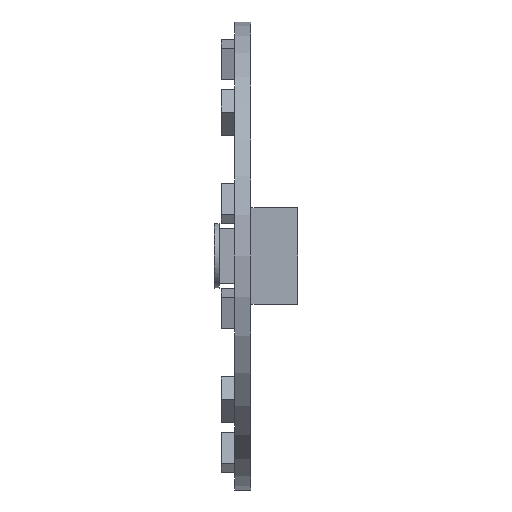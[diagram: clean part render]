
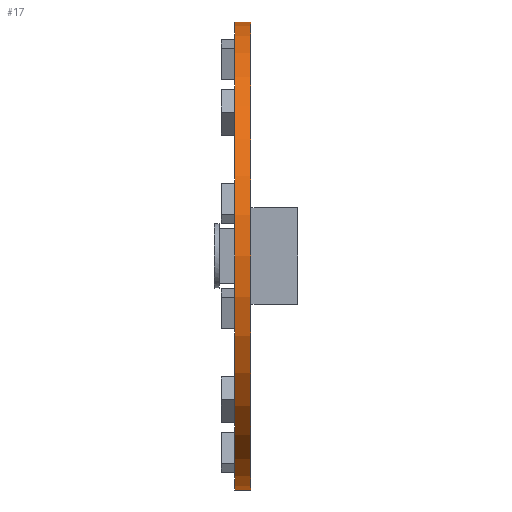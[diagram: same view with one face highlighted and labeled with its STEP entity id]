
A CAD part, front view. The second image highlights one B-rep face of the part: STEP entity #17.
In plain terms, the highlighted cylindrical face has radius 14.5 mm (diameter 29 mm), a full revolution.
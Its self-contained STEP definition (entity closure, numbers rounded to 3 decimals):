
#17 = ADVANCED_FACE('',(#18),#31,.T.);
#18 = FACE_BOUND('',#19,.F.);
#19 = EDGE_LOOP('',(#20,#58,#81,#112));
#20 = ORIENTED_EDGE('',*,*,#21,.F.);
#21 = EDGE_CURVE('',#22,#22,#24,.T.);
#22 = VERTEX_POINT('',#23);
#23 = CARTESIAN_POINT('',(-66.72,-4.,227.5));
#24 = SURFACE_CURVE('',#25,(#30,#42),.PCURVE_S1.);
#25 = CIRCLE('',#26,14.5);
#26 = AXIS2_PLACEMENT_3D('',#27,#28,#29);
#27 = CARTESIAN_POINT('',(-66.72,-4.,213.));
#28 = DIRECTION('',(1.,-0.,0.));
#29 = DIRECTION('',(-0.,-0.,1.));
#30 = PCURVE('',#31,#36);
#31 = CYLINDRICAL_SURFACE('',#32,14.5);
#32 = AXIS2_PLACEMENT_3D('',#33,#34,#35);
#33 = CARTESIAN_POINT('',(-65.72,-4.,213.));
#34 = DIRECTION('',(-1.,-0.,-0.));
#35 = DIRECTION('',(-0.,-0.,1.));
#36 = DEFINITIONAL_REPRESENTATION('',(#37),#41);
#37 = LINE('',#38,#39);
#38 = CARTESIAN_POINT('',(-0.,1.));
#39 = VECTOR('',#40,1.);
#40 = DIRECTION('',(-1.,0.));
#41 = ( GEOMETRIC_REPRESENTATION_CONTEXT(2) 
PARAMETRIC_REPRESENTATION_CONTEXT() REPRESENTATION_CONTEXT('2D SPACE',''
  ) );
#42 = PCURVE('',#43,#48);
#43 = PLANE('',#44);
#44 = AXIS2_PLACEMENT_3D('',#45,#46,#47);
#45 = CARTESIAN_POINT('',(-66.72,-4.,213.));
#46 = DIRECTION('',(-1.,-0.,-0.));
#47 = DIRECTION('',(0.,0.,-1.));
#48 = DEFINITIONAL_REPRESENTATION('',(#49),#57);
#49 = ( BOUNDED_CURVE() B_SPLINE_CURVE(2,(#50,#51,#52,#53,#54,#55,#56),
.UNSPECIFIED.,.T.,.F.) B_SPLINE_CURVE_WITH_KNOTS((1,2,2,2,2,1),(
    -2.094,0.,2.094,4.189,6.283,
8.378),.UNSPECIFIED.) CURVE() GEOMETRIC_REPRESENTATION_ITEM() 
RATIONAL_B_SPLINE_CURVE((1.,0.5,1.,0.5,1.,0.5,1.)) REPRESENTATION_ITEM(
  '') );
#50 = CARTESIAN_POINT('',(-14.5,0.));
#51 = CARTESIAN_POINT('',(-14.5,25.115));
#52 = CARTESIAN_POINT('',(7.25,12.557));
#53 = CARTESIAN_POINT('',(29.,0.));
#54 = CARTESIAN_POINT('',(7.25,-12.557));
#55 = CARTESIAN_POINT('',(-14.5,-25.115));
#56 = CARTESIAN_POINT('',(-14.5,0.));
#57 = ( GEOMETRIC_REPRESENTATION_CONTEXT(2) 
PARAMETRIC_REPRESENTATION_CONTEXT() REPRESENTATION_CONTEXT('2D SPACE',''
  ) );
#58 = ORIENTED_EDGE('',*,*,#59,.F.);
#59 = EDGE_CURVE('',#60,#22,#62,.T.);
#60 = VERTEX_POINT('',#61);
#61 = CARTESIAN_POINT('',(-65.72,-4.,227.5));
#62 = SEAM_CURVE('',#63,(#67,#74),.PCURVE_S1.);
#63 = LINE('',#64,#65);
#64 = CARTESIAN_POINT('',(-65.72,-4.,227.5));
#65 = VECTOR('',#66,1.);
#66 = DIRECTION('',(-1.,-0.,-0.));
#67 = PCURVE('',#31,#68);
#68 = DEFINITIONAL_REPRESENTATION('',(#69),#73);
#69 = LINE('',#70,#71);
#70 = CARTESIAN_POINT('',(-6.283,-0.));
#71 = VECTOR('',#72,1.);
#72 = DIRECTION('',(-0.,1.));
#73 = ( GEOMETRIC_REPRESENTATION_CONTEXT(2) 
PARAMETRIC_REPRESENTATION_CONTEXT() REPRESENTATION_CONTEXT('2D SPACE',''
  ) );
#74 = PCURVE('',#31,#75);
#75 = DEFINITIONAL_REPRESENTATION('',(#76),#80);
#76 = LINE('',#77,#78);
#77 = CARTESIAN_POINT('',(-0.,-0.));
#78 = VECTOR('',#79,1.);
#79 = DIRECTION('',(-0.,1.));
#80 = ( GEOMETRIC_REPRESENTATION_CONTEXT(2) 
PARAMETRIC_REPRESENTATION_CONTEXT() REPRESENTATION_CONTEXT('2D SPACE',''
  ) );
#81 = ORIENTED_EDGE('',*,*,#82,.T.);
#82 = EDGE_CURVE('',#60,#60,#83,.T.);
#83 = SURFACE_CURVE('',#84,(#89,#96),.PCURVE_S1.);
#84 = CIRCLE('',#85,14.5);
#85 = AXIS2_PLACEMENT_3D('',#86,#87,#88);
#86 = CARTESIAN_POINT('',(-65.72,-4.,213.));
#87 = DIRECTION('',(1.,-0.,0.));
#88 = DIRECTION('',(-0.,-0.,1.));
#89 = PCURVE('',#31,#90);
#90 = DEFINITIONAL_REPRESENTATION('',(#91),#95);
#91 = LINE('',#92,#93);
#92 = CARTESIAN_POINT('',(-0.,0.));
#93 = VECTOR('',#94,1.);
#94 = DIRECTION('',(-1.,0.));
#95 = ( GEOMETRIC_REPRESENTATION_CONTEXT(2) 
PARAMETRIC_REPRESENTATION_CONTEXT() REPRESENTATION_CONTEXT('2D SPACE',''
  ) );
#96 = PCURVE('',#97,#102);
#97 = PLANE('',#98);
#98 = AXIS2_PLACEMENT_3D('',#99,#100,#101);
#99 = CARTESIAN_POINT('',(-65.72,-4.,213.));
#100 = DIRECTION('',(-1.,-0.,-0.));
#101 = DIRECTION('',(0.,0.,-1.));
#102 = DEFINITIONAL_REPRESENTATION('',(#103),#111);
#103 = ( BOUNDED_CURVE() B_SPLINE_CURVE(2,(#104,#105,#106,#107,#108,#109
,#110),.UNSPECIFIED.,.T.,.F.) B_SPLINE_CURVE_WITH_KNOTS((1,2,2,2,2,1),(
    -2.094,0.,2.094,4.189,6.283,
8.378),.UNSPECIFIED.) CURVE() GEOMETRIC_REPRESENTATION_ITEM() 
RATIONAL_B_SPLINE_CURVE((1.,0.5,1.,0.5,1.,0.5,1.)) REPRESENTATION_ITEM(
  '') );
#104 = CARTESIAN_POINT('',(-14.5,0.));
#105 = CARTESIAN_POINT('',(-14.5,25.115));
#106 = CARTESIAN_POINT('',(7.25,12.557));
#107 = CARTESIAN_POINT('',(29.,0.));
#108 = CARTESIAN_POINT('',(7.25,-12.557));
#109 = CARTESIAN_POINT('',(-14.5,-25.115));
#110 = CARTESIAN_POINT('',(-14.5,0.));
#111 = ( GEOMETRIC_REPRESENTATION_CONTEXT(2) 
PARAMETRIC_REPRESENTATION_CONTEXT() REPRESENTATION_CONTEXT('2D SPACE',''
  ) );
#112 = ORIENTED_EDGE('',*,*,#59,.T.);
